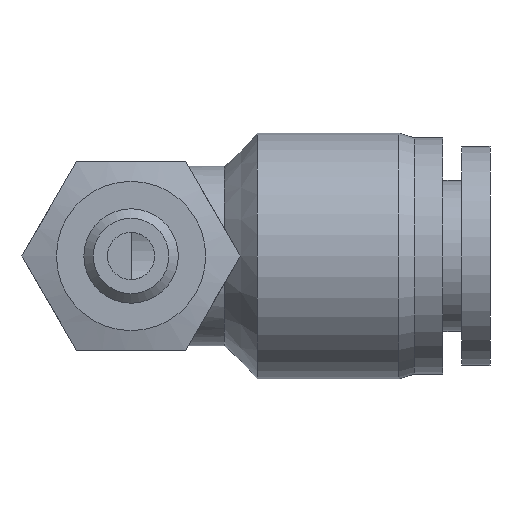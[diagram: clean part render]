
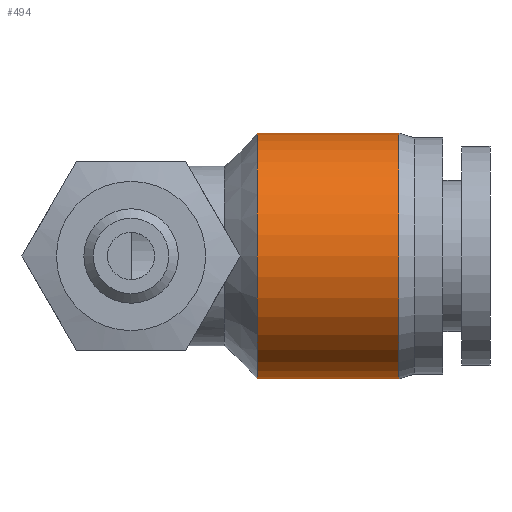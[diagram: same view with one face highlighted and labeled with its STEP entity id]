
A CAD part, front view. The second image highlights one B-rep face of the part: STEP entity #494.
In plain terms, the highlighted cylindrical face has radius 6.5 mm (diameter 13 mm), a full revolution.
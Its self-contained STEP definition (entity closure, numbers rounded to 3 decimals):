
#67=FACE_BOUND($,#165,.T.);
#88=CYLINDRICAL_SURFACE($,#556,6.5);
#119=FACE_OUTER_BOUND($,#164,.T.);
#164=EDGE_LOOP($,(#437));
#165=EDGE_LOOP($,(#438));
#200=CIRCLE($,#555,6.5);
#201=CIRCLE($,#557,6.5);
#262=VERTEX_POINT($,#908);
#263=VERTEX_POINT($,#911);
#323=EDGE_CURVE($,#262,#262,#200,.T.);
#324=EDGE_CURVE($,#263,#263,#201,.T.);
#437=ORIENTED_EDGE($,*,*,#324,.F.);
#438=ORIENTED_EDGE($,*,*,#323,.T.);
#494=ADVANCED_FACE($,(#119,#67),#88,.T.);
#555=AXIS2_PLACEMENT_3D($,#909,#682,#683);
#556=AXIS2_PLACEMENT_3D($,#910,#684,#685);
#557=AXIS2_PLACEMENT_3D($,#912,#686,#687);
#682=DIRECTION('center_axis',(1.,0.,0.));
#683=DIRECTION('ref_axis',(0.,1.,0.));
#684=DIRECTION('center_axis',(1.,0.,0.));
#685=DIRECTION('ref_axis',(0.,1.,0.));
#686=DIRECTION('center_axis',(1.,0.,0.));
#687=DIRECTION('ref_axis',(0.,1.,0.));
#908=CARTESIAN_POINT('',(6.682,6.5,0.));
#909=CARTESIAN_POINT('Origin',(6.682,0.,0.));
#910=CARTESIAN_POINT('Origin',(10.432,0.,0.));
#911=CARTESIAN_POINT('',(14.182,6.5,0.));
#912=CARTESIAN_POINT('Origin',(14.182,0.,0.));
